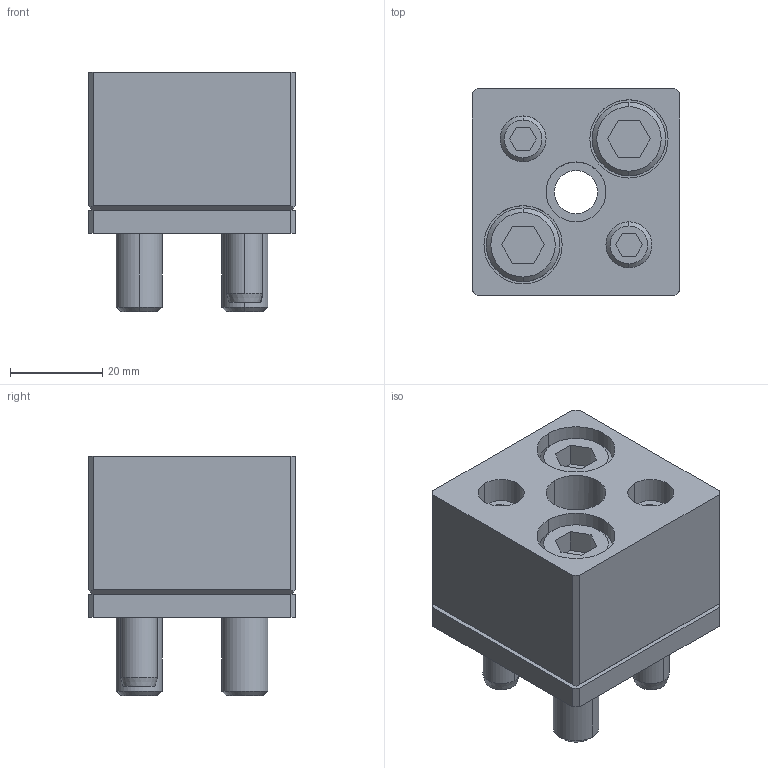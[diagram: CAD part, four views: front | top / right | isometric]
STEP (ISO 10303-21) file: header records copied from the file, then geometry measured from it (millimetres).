
FILE_DESCRIPTION(/* description */ (''),/* implementation_level */ '2;1');
FILE_NAME(/* name */ '3d_sr-fd13_05477_r00.stp',/* time_stamp */ '2011-01-10T14:09:59+09:00',/* author */ ('MISUMI'),/* organization */ (''),/* preprocessor_version */ 'ST-DEVELOPER v11',/* originating_system */ 'UGS - NX 5.0',/* authorisation */ '');
FILE_SCHEMA (('CONFIG_CONTROL_DESIGN'));
Length unit declared in the file: millimetre
Products named in the file (1): 3d_sr-fd13_05477_r00
Bounding box: 45 x 45 x 52 mm (x, y, z)
Volume: 64921.1 mm3; surface area: 26293 mm2
Topology: 8 solids, 8 shells, 159 faces, 364 edges, 235 vertices
Faces by surface type: plane 78, cylinder 55, cone 26
Entity records: 4636 total; most frequent: DIRECTION 814, CARTESIAN_POINT 806, ORIENTED_EDGE 728, EDGE_CURVE 364, AXIS2_PLACEMENT_3D 297, VERTEX_POINT 235, LINE 220, VECTOR 220
